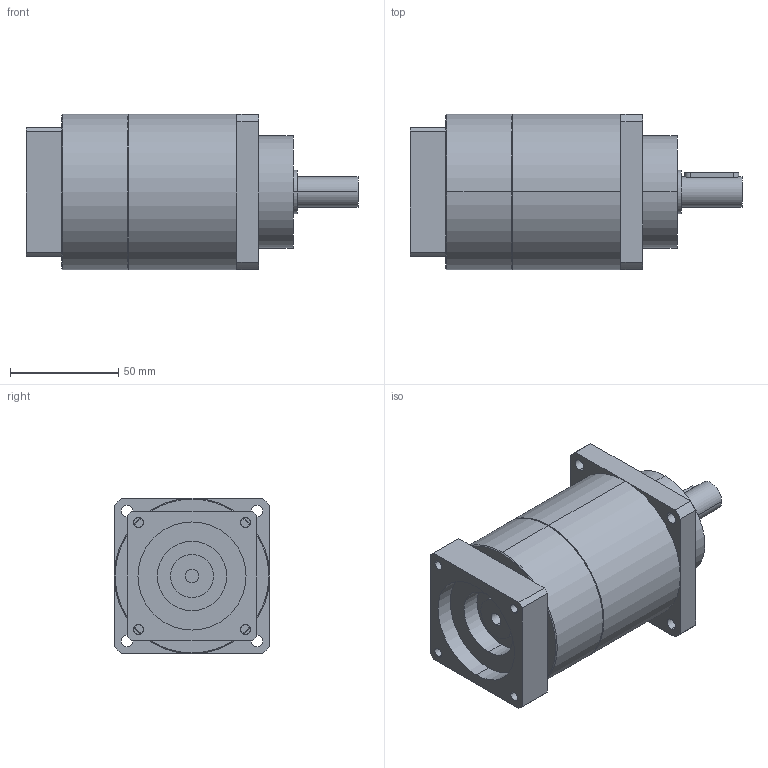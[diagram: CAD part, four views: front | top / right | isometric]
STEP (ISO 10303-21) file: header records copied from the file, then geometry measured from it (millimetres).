
FILE_DESCRIPTION(('CoCreate Modeling STEP Export'),'2;1');
FILE_NAME('GPT75_ig-9-12-16-20-25-28-35-40-50-70-100_14_B5T_6.35_P17.stp','2014-08-27T13:38:49',(''),(''),'CoCreate Modeling STEP processor for AP214 (Solid Model)','CoCreate Modeling 16.00C 25-Feb-2009 (C) Parametric Technology GmbH','');
FILE_SCHEMA(('AUTOMOTIVE_DESIGN { 1 0 10303 214 1 1 1 1 }'));
Length unit declared in the file: millimetre
Products named in the file (2): GPT75_ig-9-12-16-20-25-28-35-40-50-70-100_14_B5T_6.35_P17
Assembly tree (1 placements, depth 2):
  GPT75_ig-9-12-16-20-25-28-35-40-50-70-100_14_B5T_6.35_P17
    GPT75_ig-9-12-16-20-25-28-35-40-50-70-100_14_B5T_6.35_P17
Bounding box: 153.5 x 72 x 72 mm (x, y, z)
Volume: 455084.2 mm3; surface area: 44457.1 mm2
Topology: 1 solids, 1 shells, 88 faces, 226 edges, 145 vertices
Faces by surface type: cylinder 46, plane 38, cone 4
Entity records: 2676 total; most frequent: CARTESIAN_POINT 744, ORIENTED_EDGE 452, DIRECTION 334, EDGE_CURVE 226, VERTEX_POINT 145, AXIS2_PLACEMENT_3D 123, EDGE_LOOP 109, VECTOR 88
